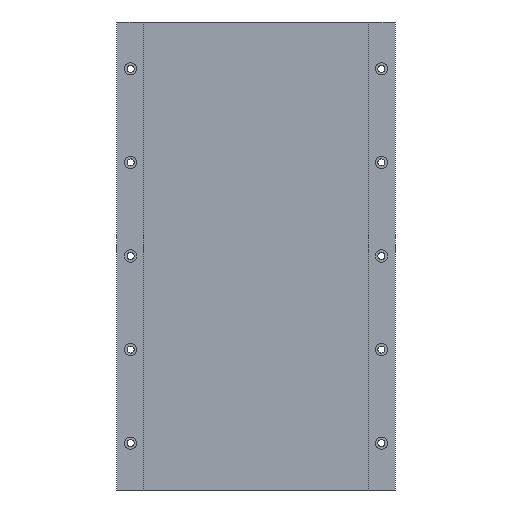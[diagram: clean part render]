
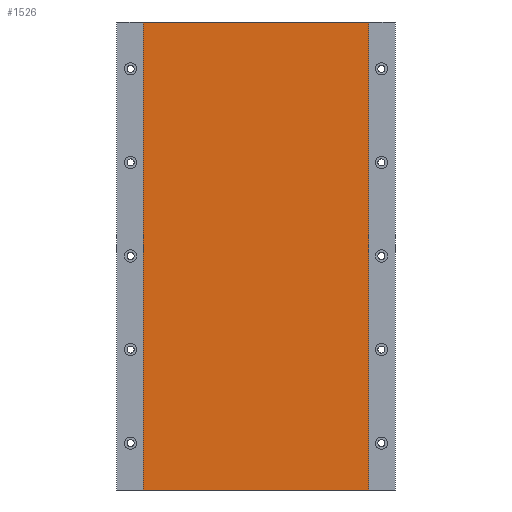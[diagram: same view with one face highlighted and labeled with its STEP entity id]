
A CAD part, left-side view. The second image highlights one B-rep face of the part: STEP entity #1526.
In plain terms, the highlighted planar face has unit normal (-1, 0, 0).
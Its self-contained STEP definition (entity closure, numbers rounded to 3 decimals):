
#192 = DIRECTION ( 'NONE',  ( -1., 0., 0. ) ) ;
#449 = ORIENTED_EDGE ( 'NONE', *, *, #465, .F. ) ;
#465 = EDGE_CURVE ( 'NONE', #818, #1228, #1628, .T. ) ;
#469 = VERTEX_POINT ( 'NONE', #1225 ) ;
#479 = EDGE_CURVE ( 'NONE', #1228, #469, #1438, .T. ) ;
#480 = DIRECTION ( 'NONE',  ( 0., 0., 1. ) ) ;
#498 = DIRECTION ( 'NONE',  ( 0., 0., -1. ) ) ;
#504 = CARTESIAN_POINT ( 'NONE',  ( -7.8, 0., 0. ) ) ;
#592 = DIRECTION ( 'NONE',  ( 0., 1., 0. ) ) ;
#594 = LINE ( 'NONE', #1854, #1604 ) ;
#601 = CARTESIAN_POINT ( 'NONE',  ( -7.8, 101.15, 420. ) ) ;
#762 = EDGE_CURVE ( 'NONE', #1735, #469, #594, .T. ) ;
#780 = CARTESIAN_POINT ( 'NONE',  ( -7.8, -101.15, 0. ) ) ;
#787 = CARTESIAN_POINT ( 'NONE',  ( -7.8, -101.15, 420. ) ) ;
#818 = VERTEX_POINT ( 'NONE', #1512 ) ;
#923 = CARTESIAN_POINT ( 'NONE',  ( -7.8, 0., 420. ) ) ;
#997 = ORIENTED_EDGE ( 'NONE', *, *, #1174, .T. ) ;
#1103 = AXIS2_PLACEMENT_3D ( 'NONE', #923, #192, #480 ) ;
#1119 = VECTOR ( 'NONE', #498, 1000. ) ;
#1174 = EDGE_CURVE ( 'NONE', #818, #1735, #1816, .T. ) ;
#1213 = ORIENTED_EDGE ( 'NONE', *, *, #762, .T. ) ;
#1220 = DIRECTION ( 'NONE',  ( 0., 1., 0. ) ) ;
#1225 = CARTESIAN_POINT ( 'NONE',  ( -7.8, 101.15, 0. ) ) ;
#1228 = VERTEX_POINT ( 'NONE', #780 ) ;
#1287 = DIRECTION ( 'NONE',  ( 0., 0., -1. ) ) ;
#1314 = CARTESIAN_POINT ( 'NONE',  ( -7.8, 0., 420. ) ) ;
#1357 = PLANE ( 'NONE',  #1103 ) ;
#1361 = FACE_OUTER_BOUND ( 'NONE', #1863, .T. ) ;
#1408 = VECTOR ( 'NONE', #592, 1000. ) ;
#1438 = LINE ( 'NONE', #504, #1538 ) ;
#1512 = CARTESIAN_POINT ( 'NONE',  ( -7.8, -101.15, 420. ) ) ;
#1526 = ADVANCED_FACE ( 'NONE', ( #1361 ), #1357, .T. ) ;
#1538 = VECTOR ( 'NONE', #1220, 1000. ) ;
#1604 = VECTOR ( 'NONE', #1287, 1000. ) ;
#1628 = LINE ( 'NONE', #787, #1119 ) ;
#1688 = ORIENTED_EDGE ( 'NONE', *, *, #479, .F. ) ;
#1735 = VERTEX_POINT ( 'NONE', #601 ) ;
#1816 = LINE ( 'NONE', #1314, #1408 ) ;
#1854 = CARTESIAN_POINT ( 'NONE',  ( -7.8, 101.15, 420. ) ) ;
#1863 = EDGE_LOOP ( 'NONE', ( #1688, #449, #997, #1213 ) ) ;
